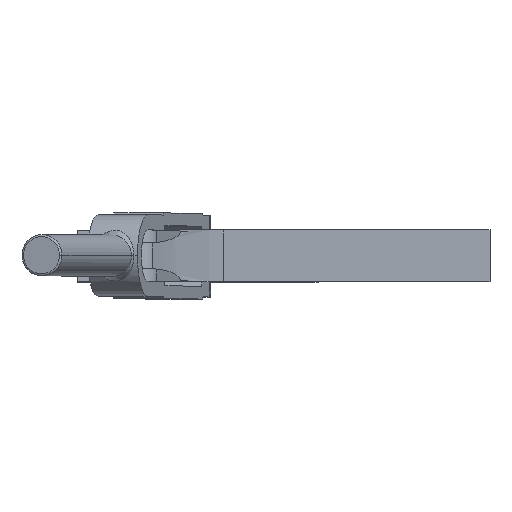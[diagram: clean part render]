
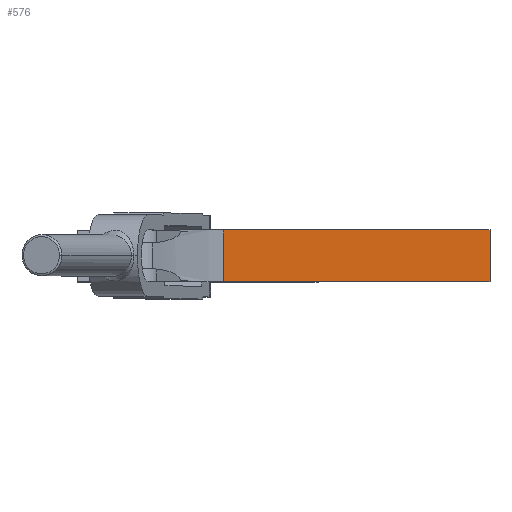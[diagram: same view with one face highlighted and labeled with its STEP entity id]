
A CAD part, top view. The second image highlights one B-rep face of the part: STEP entity #576.
In plain terms, the highlighted planar face has unit normal (0, 0, 1).
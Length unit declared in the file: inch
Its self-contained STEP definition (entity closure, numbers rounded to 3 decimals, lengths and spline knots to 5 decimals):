
#576 = ADVANCED_FACE( '', ( #809 ), #810, .T. );
#809 = FACE_OUTER_BOUND( '', #1139, .T. );
#810 = PLANE( '', #1140 );
#1139 = EDGE_LOOP( '', ( #1968, #1969, #1970, #1971 ) );
#1140 = AXIS2_PLACEMENT_3D( '', #1972, #1973, #1974 );
#1968 = ORIENTED_EDGE( '', *, *, #2854, .F. );
#1969 = ORIENTED_EDGE( '', *, *, #2855, .T. );
#1970 = ORIENTED_EDGE( '', *, *, #2856, .T. );
#1971 = ORIENTED_EDGE( '', *, *, #2823, .F. );
#1972 = CARTESIAN_POINT( '', ( 6., 0.375, 3.8125 ) );
#1973 = DIRECTION( '', ( 0., 0., 1. ) );
#1974 = DIRECTION( '', ( 1., 0., 0. ) );
#2823 = EDGE_CURVE( '', #3363, #3365, #3366, .T. );
#2854 = EDGE_CURVE( '', #3417, #3363, #3419, .T. );
#2855 = EDGE_CURVE( '', #3417, #3420, #3421, .T. );
#2856 = EDGE_CURVE( '', #3420, #3365, #3422, .T. );
#3363 = VERTEX_POINT( '', #4224 );
#3365 = VERTEX_POINT( '', #4226 );
#3366 = LINE( '', #4227, #4228 );
#3417 = VERTEX_POINT( '', #4324 );
#3419 = LINE( '', #4326, #4327 );
#3420 = VERTEX_POINT( '', #4328 );
#3421 = LINE( '', #4329, #4330 );
#3422 = LINE( '', #4331, #4332 );
#4224 = CARTESIAN_POINT( '', ( 2.125, 0.375, 3.8125 ) );
#4226 = CARTESIAN_POINT( '', ( 6., 0.375, 3.8125 ) );
#4227 = CARTESIAN_POINT( '', ( 2.125, 0.375, 3.8125 ) );
#4228 = VECTOR( '', #5109, 1. );
#4324 = CARTESIAN_POINT( '', ( 2.125, -0.375, 3.8125 ) );
#4326 = CARTESIAN_POINT( '', ( 2.125, -0.375, 3.8125 ) );
#4327 = VECTOR( '', #5154, 1. );
#4328 = CARTESIAN_POINT( '', ( 6., -0.375, 3.8125 ) );
#4329 = CARTESIAN_POINT( '', ( 2.125, -0.375, 3.8125 ) );
#4330 = VECTOR( '', #5155, 1. );
#4331 = CARTESIAN_POINT( '', ( 6., -0.375, 3.8125 ) );
#4332 = VECTOR( '', #5156, 1. );
#5109 = DIRECTION( '', ( 1., 0., 0. ) );
#5154 = DIRECTION( '', ( 0., 1., 0. ) );
#5155 = DIRECTION( '', ( 1., 0., 0. ) );
#5156 = DIRECTION( '', ( 0., 1., 0. ) );
